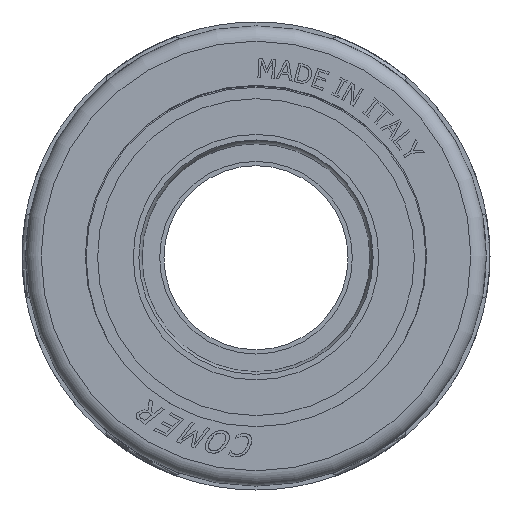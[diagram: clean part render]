
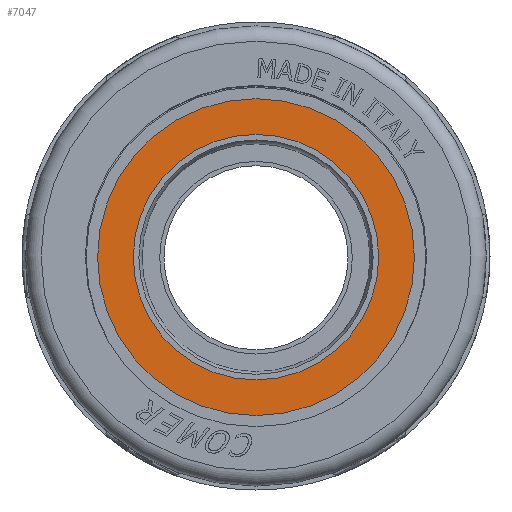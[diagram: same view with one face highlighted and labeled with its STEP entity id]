
A CAD part, left-side view. The second image highlights one B-rep face of the part: STEP entity #7047.
In plain terms, the highlighted planar face has unit normal (-1, 0, 0).
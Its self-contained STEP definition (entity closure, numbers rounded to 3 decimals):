
#2044=PLANE('',#7555);
#2297=FACE_BOUND('',#2823,.T.);
#2400=FACE_OUTER_BOUND('',#2822,.T.);
#2822=EDGE_LOOP('',(#5183));
#2823=EDGE_LOOP('',(#5184));
#3250=CIRCLE('',#7554,20.65);
#3251=CIRCLE('',#7556,16.);
#3423=VERTEX_POINT('',#18365);
#3424=VERTEX_POINT('',#18368);
#4111=EDGE_CURVE('',#3423,#3423,#3250,.T.);
#4112=EDGE_CURVE('',#3424,#3424,#3251,.T.);
#5183=ORIENTED_EDGE('',*,*,#4111,.T.);
#5184=ORIENTED_EDGE('',*,*,#4112,.F.);
#7047=ADVANCED_FACE('',(#2400,#2297),#2044,.T.);
#7554=AXIS2_PLACEMENT_3D('',#18366,#8137,#8138);
#7555=AXIS2_PLACEMENT_3D('',#18367,#8139,#8140);
#7556=AXIS2_PLACEMENT_3D('',#18369,#8141,#8142);
#8137=DIRECTION('center_axis',(-1.,0.,0.));
#8138=DIRECTION('ref_axis',(0.,0.,1.));
#8139=DIRECTION('center_axis',(-1.,0.,0.));
#8140=DIRECTION('ref_axis',(0.,0.,1.));
#8141=DIRECTION('center_axis',(-1.,0.,0.));
#8142=DIRECTION('ref_axis',(0.,0.,1.));
#18365=CARTESIAN_POINT('',(7.99,-20.65,0.));
#18366=CARTESIAN_POINT('Origin',(7.99,0.,0.));
#18367=CARTESIAN_POINT('Origin',(7.99,-16.,0.));
#18368=CARTESIAN_POINT('',(7.99,-16.,0.));
#18369=CARTESIAN_POINT('Origin',(7.99,0.,0.));
